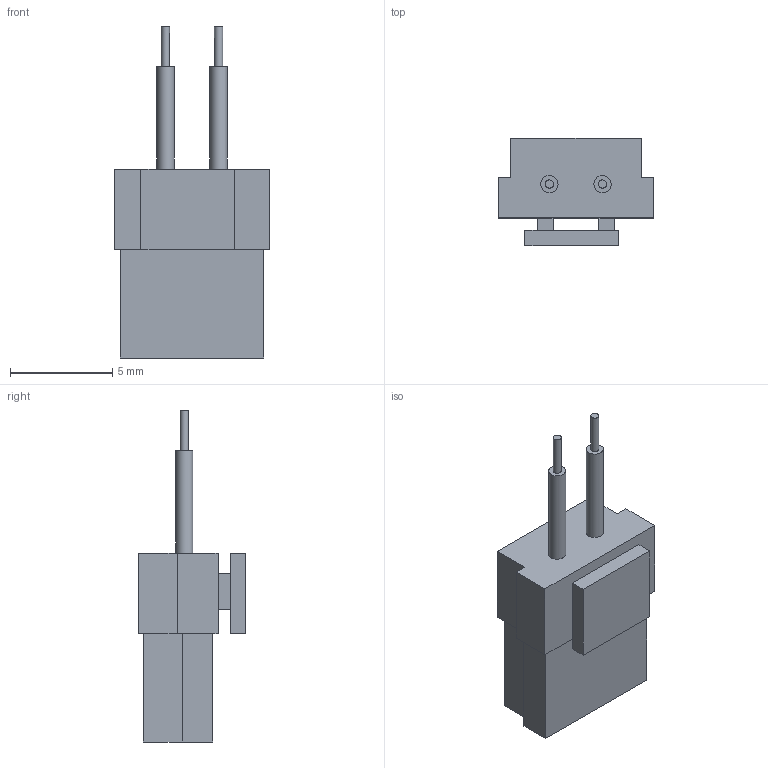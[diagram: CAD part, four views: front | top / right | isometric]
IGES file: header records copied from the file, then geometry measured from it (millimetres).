
Global section: file name: 371.####; native system: Autodesk Inventor 2014; preprocessor: unknown; author: R.Rivoltella; organization: Pneumax S.p.A.; date: 20160902.103847; units: millimetre
Bounding box: 7.6 x 5.25 x 16.25 mm (x, y, z)
Volume: 244.4 mm3; surface area: 337.2 mm2
Topology: 1 solids, 1 shells, 41 faces, 96 edges, 64 vertices
Faces by surface type: bspline 41
